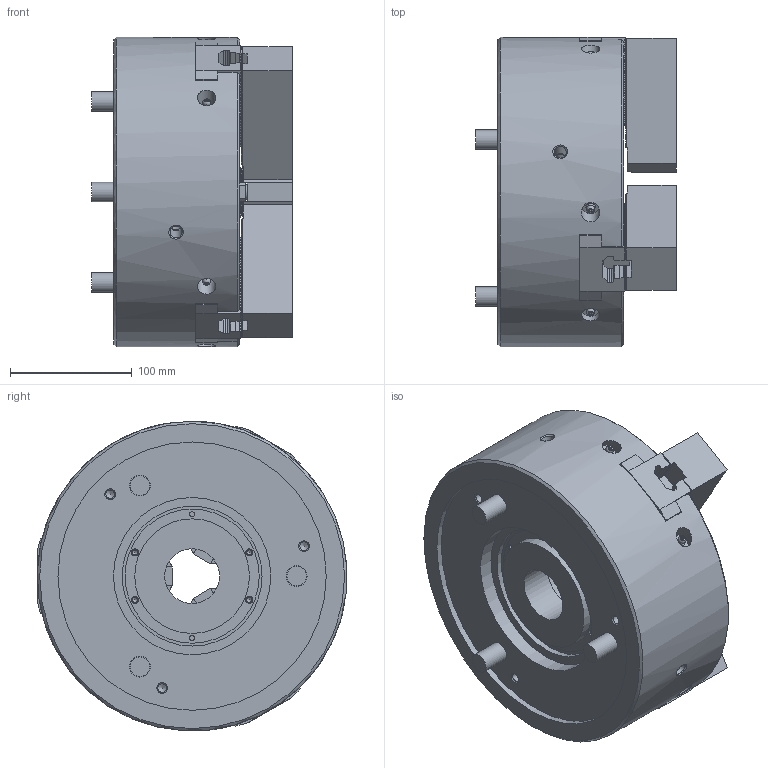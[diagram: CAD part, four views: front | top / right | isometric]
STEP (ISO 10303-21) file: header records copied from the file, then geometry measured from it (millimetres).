
FILE_DESCRIPTION (( 'STEP AP214' ), '1' );
FILE_NAME ('BS310_UC.STEP', '2019-12-23T01:19:28', ( '' ), ( '' ), 'SwSTEP 2.0', 'SolidWorks 2017', '' );
FILE_SCHEMA (( 'AUTOMOTIVE_DESIGN' ));
Length unit declared in the file: millimetre
Products named in the file (18): BS310_UC; BS310^61P242457-2_僋儈僞僥_^_e_棉太倌I佱UA; B傾僫僣僉 M12亊302_~30_棉太倌TI佱UA; P31633-7_ソフトジョー_W_‡_[_ﾃﾞﾌｫﾙﾄ_ATI≪UA; P31633-7_ソフトジョー_W_‡_[; B傾僫僣僉 M12亊302_~30; 61P417262-1_T僫僢僩b_g_棉太倌佱UA; BS310^61P242457-2_クミタテ_^_e; 61P417262-1_T僫僢僩b_g
Assembly tree (13 placements, depth 2):
  BS310_UC
    61P417262-1_T僫僢僩b_g_棉太倌佱UA  x3
    P31633-7_ソフトジョー_W_‡_[_ﾃﾞﾌｫﾙﾄ_ATI≪UA  x3
    B傾僫僣僉 M12亊302_~30_棉太倌TI佱UA  x6
    BS310^61P242457-2_僋儈僞僥_^_e_棉太倌I佱UA
  P31633-7_ソフトジョー_W_‡_[
  B傾僫僣僉 M12亊302_~30
  B傾僫僣僉 M12亊302_~30
  BS310^61P242457-2_クミタテ_^_e
Bounding box: 164.4 x 253.81 x 253.78 mm (x, y, z)
Volume: 5039448.1 mm3; surface area: 364767.5 mm2
Topology: 13 solids, 19 shells, 2963 faces, 8546 edges, 5683 vertices
Faces by surface type: plane 2743, cylinder 123, cone 76, sphere 12, torus 9
Full cylindrical faces by diameter (mm): 1.9 x6, 4.2 x6, 7 x3, 8.5 x3, 9 x6, 10 x3, 10.5 x3, 11 x3, 12 x12, 13 x6, 15 x6, 16 x3, 17 x3, 18 x6, 19 x6, 24 x3, 25 x3, 45 x1, 75 x2, 78 x2, 94 x1, 110 x1, 114.69 x1, 129 x1, 220 x1, 254 x1
Entity records: 67856 total; most frequent: CARTESIAN_POINT 13207, ORIENTED_EDGE 11710, DIRECTION 10276, EDGE_CURVE 5855, LINE 5364, VECTOR 5364, VERTEX_POINT 3951, AXIS2_PLACEMENT_3D 2456
